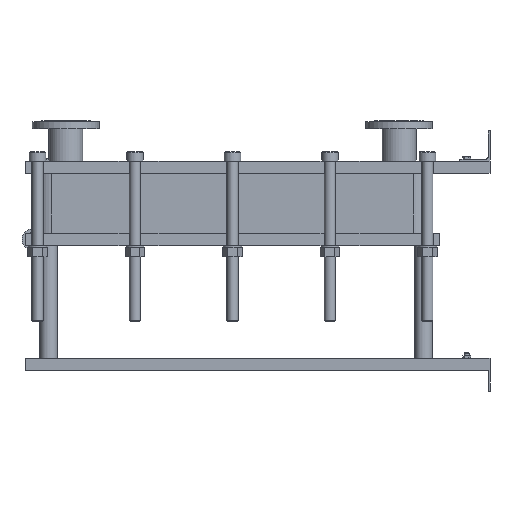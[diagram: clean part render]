
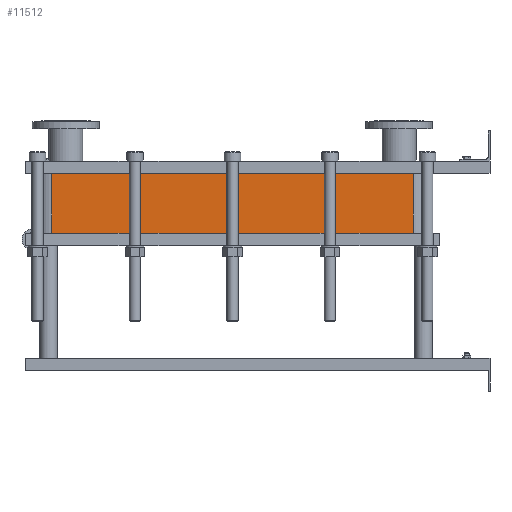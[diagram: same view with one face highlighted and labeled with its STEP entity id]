
A CAD part, left-side view. The second image highlights one B-rep face of the part: STEP entity #11512.
In plain terms, the highlighted planar face has unit normal (-1, 0, 0).
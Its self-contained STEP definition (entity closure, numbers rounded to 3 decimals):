
#1129=LINE('',#23232,#2102);
#1130=LINE('',#23236,#2103);
#1131=LINE('',#23238,#2104);
#1132=LINE('',#23239,#2105);
#2102=VECTOR('',#15887,10.);
#2103=VECTOR('',#15892,10.);
#2104=VECTOR('',#15893,10.);
#2105=VECTOR('',#15894,10.);
#3267=FACE_OUTER_BOUND('',#4093,.T.);
#4093=EDGE_LOOP('',(#10103,#10104,#10105,#10106));
#5642=VERTEX_POINT('',#23229);
#5643=VERTEX_POINT('',#23231);
#5644=VERTEX_POINT('',#23235);
#5645=VERTEX_POINT('',#23237);
#7159=EDGE_CURVE('',#5643,#5642,#1129,.T.);
#7161=EDGE_CURVE('',#5642,#5644,#1130,.T.);
#7162=EDGE_CURVE('',#5645,#5644,#1131,.T.);
#7163=EDGE_CURVE('',#5645,#5643,#1132,.T.);
#10103=ORIENTED_EDGE('',*,*,#7161,.T.);
#10104=ORIENTED_EDGE('',*,*,#7162,.F.);
#10105=ORIENTED_EDGE('',*,*,#7163,.T.);
#10106=ORIENTED_EDGE('',*,*,#7159,.T.);
#10857=PLANE('',#12751);
#11512=ADVANCED_FACE('',(#3267),#10857,.T.);
#12751=AXIS2_PLACEMENT_3D('',#23234,#15890,#15891);
#15887=DIRECTION('',(0.,0.,-1.));
#15890=DIRECTION('center_axis',(-1.,0.,0.));
#15891=DIRECTION('ref_axis',(0.,1.,0.));
#15892=DIRECTION('',(0.,-1.,0.));
#15893=DIRECTION('',(0.,0.,-1.));
#15894=DIRECTION('',(0.,1.,0.));
#23229=CARTESIAN_POINT('',(-200.,1414.,-193.2));
#23231=CARTESIAN_POINT('',(-200.,1414.,0.));
#23232=CARTESIAN_POINT('',(-200.,1414.,0.));
#23234=CARTESIAN_POINT('Origin',(-200.,248.,0.));
#23235=CARTESIAN_POINT('',(-200.,248.,-193.2));
#23236=CARTESIAN_POINT('',(-200.,539.5,-193.2));
#23237=CARTESIAN_POINT('',(-200.,248.,0.));
#23238=CARTESIAN_POINT('',(-200.,248.,0.));
#23239=CARTESIAN_POINT('',(-200.,248.,0.));
